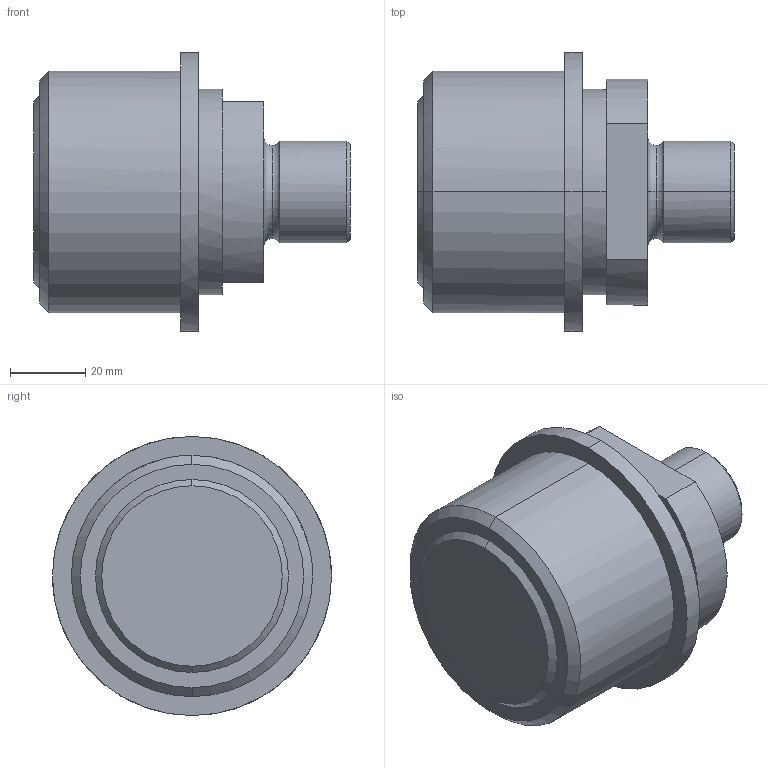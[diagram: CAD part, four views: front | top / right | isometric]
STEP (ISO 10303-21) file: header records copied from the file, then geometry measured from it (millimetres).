
FILE_DESCRIPTION(('CATIA V5 STEP Exchange'),'2;1');
FILE_NAME('C:\Users\Utente\Desktop\IO LAVORO\3D X SITO CF\X SITO\PLASTICA\AGS\AGS3422M27.stp','2021-02-21T19:47:54+00:00',('none'),('none'),'CATIA Version 5 Release 20 GA (IN-10)','CATIA V5 STEP AP203','none');
FILE_SCHEMA(('CONFIG_CONTROL_DESIGN'));
Length unit declared in the file: millimetre
Products named in the file (1): AGS3422M27
Bounding box: 84 x 74 x 74 mm (x, y, z)
Volume: 198435.9 mm3; surface area: 22664.9 mm2
Topology: 1 solids, 1 shells, 32 faces, 90 edges, 64 vertices
Faces by surface type: plane 12, cylinder 10, cone 6, torus 4
Entity records: 1204 total; most frequent: CARTESIAN_POINT 349, ORIENTED_EDGE 180, DIRECTION 139, EDGE_CURVE 90, AXIS2_PLACEMENT_3D 82, VERTEX_POINT 64, CIRCLE 49, EDGE_LOOP 36
